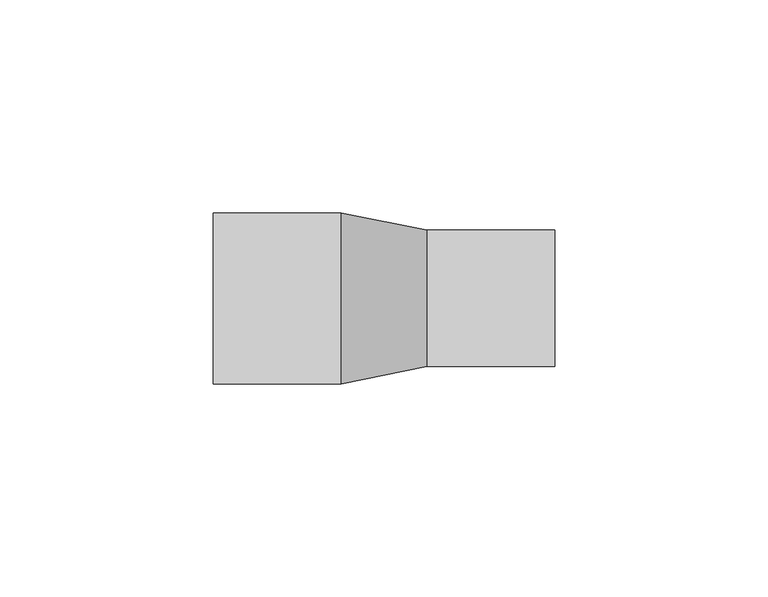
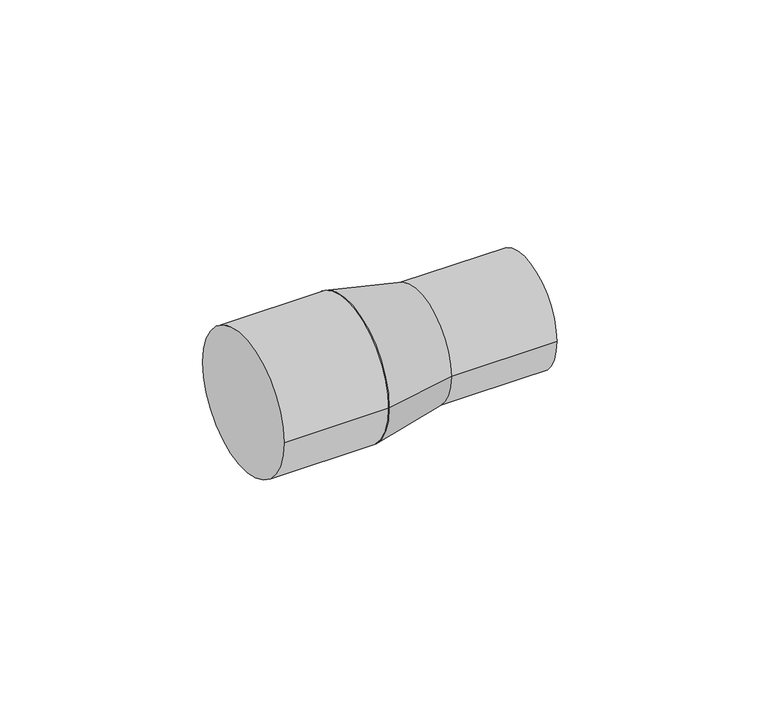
"""IFC4 building model written with IfcOpenShell, lengths in millimetres: pipe fitting geometry, NLRS_52_PIF_UN_PE verloop centrisch, kort_PRO_101573_geb : DN40-150 / ø40-160 - OD."""

from ifc_helpers import new_model, si_unit, point, frame, origin, origin_2d, place, context, project, spatial, polyline, circle_curve, trimmed, segment, composite_curve, outline, extrude, source, transform, mapped, element, save
from ifc_brep_helpers import plane_surface, revolved_surface, advanced_brep


def pipe_fitting_122abe25(model_context):
    return source(origin(), model_context, "Body", "SolidModel", [
        advanced_brep(
        [(10.0, -16.0, 0.0), (10.0, 16.0, 0.0), (-10.0, -20.0, 0.0), (-10.0, 20.0, 0.0)],
        [
            (0, 1, circle_curve(frame((10.0, 0.0, 0.0), z_axis=(1.0, 0.0, 0.0), x_axis=(0.0, -1.0, 0.0)), 16.0)),
            (1, 0, circle_curve(frame((10.0, 0.0, 0.0), z_axis=(1.0, 0.0, 0.0), x_axis=(0.0, 1.0, 0.0)), 16.0)),
            (2, 3, circle_curve(frame((-10.0, 0.0, 0.0), z_axis=(-1.0, 0.0, 0.0), x_axis=(0.0, 1.0, 0.0)), 20.0)),
            (3, 2, circle_curve(frame((-10.0, 0.0, 0.0), z_axis=(-1.0, 0.0, 0.0), x_axis=(0.0, -1.0, 0.0)), 20.0)),
            (3, 1),
            (0, 2),
        ],
        [
            plane_surface(frame((10.0, 0.0, 0.0), z_axis=(1.0, 0.0, 0.0), x_axis=(0.0, 0.0, -1.0))),
            plane_surface(frame((-10.0, 0.0, 0.0), z_axis=(-1.0, 0.0, 0.0), x_axis=(0.0, 0.0, -1.0))),
            revolved_surface(polyline([(10.0, -16.0, 0.0), (-10.0, -20.0, 0.0)]), (90.0, 0.0, 0.0), (-1.0, 0.0, 0.0)),
            revolved_surface(polyline([(10.0, 16.0, 0.0), (-10.0, 20.0, 0.0)]), (90.0, 0.0, 0.0), (-1.0, 0.0, 0.0)),
        ],
        [
            (0, [[1, 2]]),
            (1, [[3, 4]]),
            (2, [[-4, 5, -1, 6]]),
            (3, [[-3, -6, -2, -5]]),
        ],
    ),
        extrude(outline(composite_curve([segment(trimmed(circle_curve(origin_2d(), 16.0), [point((-16.0, 0.0))], [point((16.0, 0.0))], False, "CARTESIAN"), True, "CONTINUOUS"), segment(trimmed(circle_curve(origin_2d(), 16.0), [point((16.0, 0.0))], [point((-16.0, 0.0))], False, "CARTESIAN"), True, "CONTINUOUS")], self_intersect=False)), frame((10.0, 0.0, 0.0), z_axis=(1.0, 0.0, 0.0), x_axis=(0.0, 1.0, 0.0)), (0.0, 0.0, 1.0), 30.0),
        extrude(outline(composite_curve([segment(trimmed(circle_curve(origin_2d(), 20.0), [point((-20.0, 0.0))], [point((20.0, 0.0))], False, "CARTESIAN"), True, "CONTINUOUS"), segment(trimmed(circle_curve(origin_2d(), 20.0), [point((20.0, 0.0))], [point((-20.0, 0.0))], False, "CARTESIAN"), True, "CONTINUOUS")], self_intersect=False)), frame((-40.0, 0.0, 0.0), z_axis=(1.0, 0.0, 0.0), x_axis=(0.0, 1.0, 0.0)), (0.0, 0.0, 1.0), 30.0),
    ])


if __name__ == "__main__":
    model = new_model("IFC4")
    model_context = context("Model", 3, world=origin())
    ifc_project = project(units=[si_unit("LENGTHUNIT", "METRE", prefix="MILLI")], contexts=[model_context])
    site = spatial("IfcSite", under=ifc_project)
    building = spatial("IfcBuilding", under=site)
    placement = place(None, origin())
    pipe_fitting_shape = pipe_fitting_122abe25(model_context)
    element("IfcPipeFitting", 1, ObjectType="NLRS_52_PIF_UN_PE verloop centrisch, kort_PRO_101573_geb : DN40-150 / ø40-160 - OD", at=placement, inside=building, context=model_context, shape_type="MappedRepresentation", body=[
        mapped(pipe_fitting_shape, transform((0.0, 0.0, 0.0), x_axis=(1.0, 0.0, 0.0), y_axis=(0.0, 1.0, 0.0), z_axis=(0.0, 0.0, 1.0))),
    ])
    save(model, "model.ifc")
